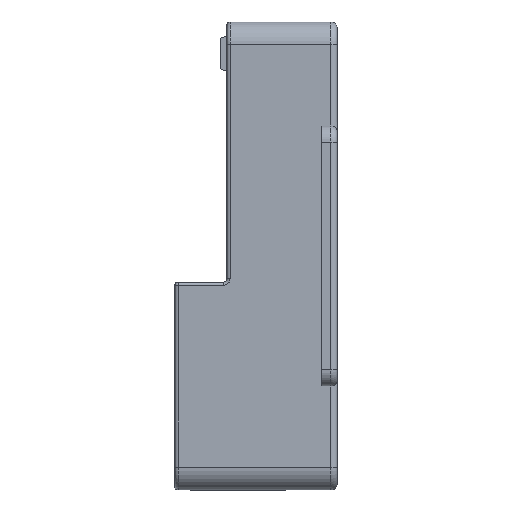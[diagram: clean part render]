
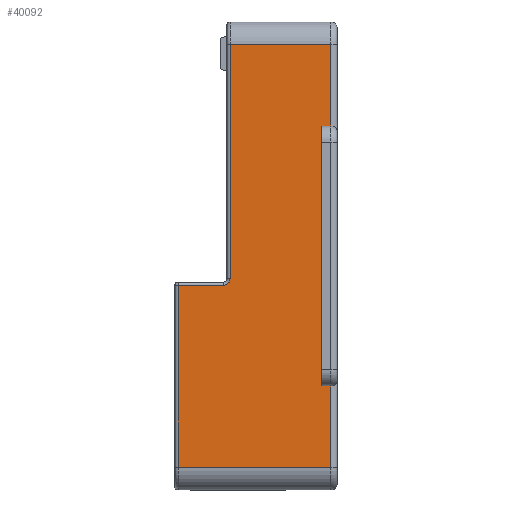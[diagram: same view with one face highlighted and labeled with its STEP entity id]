
A CAD part, left-side view. The second image highlights one B-rep face of the part: STEP entity #40092.
In plain terms, the highlighted planar face has unit normal (-1, 0, 0).
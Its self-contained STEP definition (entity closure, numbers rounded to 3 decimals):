
#2217=CIRCLE('',#42608,1.);
#3300=FACE_OUTER_BOUND('',#5675,.T.);
#5675=EDGE_LOOP('',(#28274,#28275,#28276,#28277,#28278,#28279,#28280,#28281,
#28282,#28283,#28284));
#8397=LINE('',#56905,#12732);
#8405=LINE('',#56960,#12740);
#8406=LINE('',#56990,#12741);
#8410=LINE('',#57000,#12745);
#8411=LINE('',#57002,#12746);
#8412=LINE('',#57003,#12747);
#8413=LINE('',#57005,#12748);
#8414=LINE('',#57007,#12749);
#8415=LINE('',#57011,#12750);
#8416=LINE('',#57012,#12751);
#12732=VECTOR('',#46062,12.5);
#12740=VECTOR('',#46138,12.5);
#12741=VECTOR('',#46177,1.4);
#12745=VECTOR('',#46187,23.5);
#12746=VECTOR('',#46188,40.);
#12747=VECTOR('',#46189,1.4);
#12748=VECTOR('',#46190,15.5);
#12749=VECTOR('',#46191,36.);
#12750=VECTOR('',#46194,7.);
#12751=VECTOR('',#46195,28.);
#17008=VERTEX_POINT('',#56884);
#17012=VERTEX_POINT('',#56900);
#17013=VERTEX_POINT('',#56904);
#17026=VERTEX_POINT('',#56956);
#17036=VERTEX_POINT('',#56989);
#17039=VERTEX_POINT('',#56999);
#17040=VERTEX_POINT('',#57001);
#17041=VERTEX_POINT('',#57004);
#17042=VERTEX_POINT('',#57006);
#17043=VERTEX_POINT('',#57008);
#17044=VERTEX_POINT('',#57010);
#21293=EDGE_CURVE('',#17012,#17013,#8397,.T.);
#21321=EDGE_CURVE('',#17026,#17008,#8405,.T.);
#21331=EDGE_CURVE('',#17036,#17008,#8406,.T.);
#21336=EDGE_CURVE('',#17039,#17026,#8410,.T.);
#21337=EDGE_CURVE('',#17040,#17036,#8411,.T.);
#21338=EDGE_CURVE('',#17012,#17040,#8412,.T.);
#21339=EDGE_CURVE('',#17013,#17041,#8413,.T.);
#21340=EDGE_CURVE('',#17041,#17042,#8414,.T.);
#21341=EDGE_CURVE('',#17043,#17042,#2217,.T.);
#21342=EDGE_CURVE('',#17043,#17044,#8415,.T.);
#21343=EDGE_CURVE('',#17044,#17039,#8416,.T.);
#28274=ORIENTED_EDGE('',*,*,#21336,.T.);
#28275=ORIENTED_EDGE('',*,*,#21321,.T.);
#28276=ORIENTED_EDGE('',*,*,#21331,.F.);
#28277=ORIENTED_EDGE('',*,*,#21337,.F.);
#28278=ORIENTED_EDGE('',*,*,#21338,.F.);
#28279=ORIENTED_EDGE('',*,*,#21293,.T.);
#28280=ORIENTED_EDGE('',*,*,#21339,.T.);
#28281=ORIENTED_EDGE('',*,*,#21340,.T.);
#28282=ORIENTED_EDGE('',*,*,#21341,.F.);
#28283=ORIENTED_EDGE('',*,*,#21342,.T.);
#28284=ORIENTED_EDGE('',*,*,#21343,.T.);
#38441=PLANE('',#42607);
#40092=ADVANCED_FACE('',(#3300),#38441,.F.);
#42607=AXIS2_PLACEMENT_3D('',#56998,#46185,#46186);
#42608=AXIS2_PLACEMENT_3D('',#57009,#46192,#46193);
#46062=DIRECTION('',(0.,0.,1.));
#46138=DIRECTION('',(0.,0.,1.));
#46177=DIRECTION('',(0.,-1.,0.));
#46185=DIRECTION('center_axis',(1.,0.,0.));
#46186=DIRECTION('ref_axis',(0.,0.,-1.));
#46187=DIRECTION('',(0.,-1.,0.));
#46188=DIRECTION('',(0.,0.,-1.));
#46189=DIRECTION('',(0.,1.,0.));
#46190=DIRECTION('',(0.,1.,0.));
#46191=DIRECTION('',(0.,0.,-1.));
#46192=DIRECTION('center_axis',(-1.,0.,0.));
#46193=DIRECTION('ref_axis',(0.,0.,-1.));
#46194=DIRECTION('',(0.,1.,0.));
#46195=DIRECTION('',(0.,0.,-1.));
#56884=CARTESIAN_POINT('',(-39.531,-15.296,-15.567));
#56900=CARTESIAN_POINT('',(-39.531,-15.296,24.433));
#56904=CARTESIAN_POINT('',(-39.531,-15.296,36.933));
#56905=CARTESIAN_POINT('',(-39.531,-15.296,24.433));
#56956=CARTESIAN_POINT('',(-39.531,-15.296,-28.067));
#56960=CARTESIAN_POINT('',(-39.531,-15.296,-28.067));
#56989=CARTESIAN_POINT('',(-39.531,-13.896,-15.567));
#56990=CARTESIAN_POINT('',(-39.531,-13.896,-15.567));
#56998=CARTESIAN_POINT('Origin',(-39.531,-9.296,36.933));
#56999=CARTESIAN_POINT('',(-39.531,8.204,-28.067));
#57000=CARTESIAN_POINT('',(-39.531,8.204,-28.067));
#57001=CARTESIAN_POINT('',(-39.531,-13.896,24.433));
#57002=CARTESIAN_POINT('',(-39.531,-13.896,24.433));
#57003=CARTESIAN_POINT('',(-39.531,-15.296,24.433));
#57004=CARTESIAN_POINT('',(-39.531,0.204,36.933));
#57005=CARTESIAN_POINT('',(-39.531,-15.296,36.933));
#57006=CARTESIAN_POINT('',(-39.531,0.204,0.933));
#57007=CARTESIAN_POINT('',(-39.531,0.204,36.933));
#57008=CARTESIAN_POINT('',(-39.531,1.204,-0.067));
#57009=CARTESIAN_POINT('Origin',(-39.531,1.204,0.933));
#57010=CARTESIAN_POINT('',(-39.531,8.204,-0.067));
#57011=CARTESIAN_POINT('',(-39.531,1.204,-0.067));
#57012=CARTESIAN_POINT('',(-39.531,8.204,-0.067));
